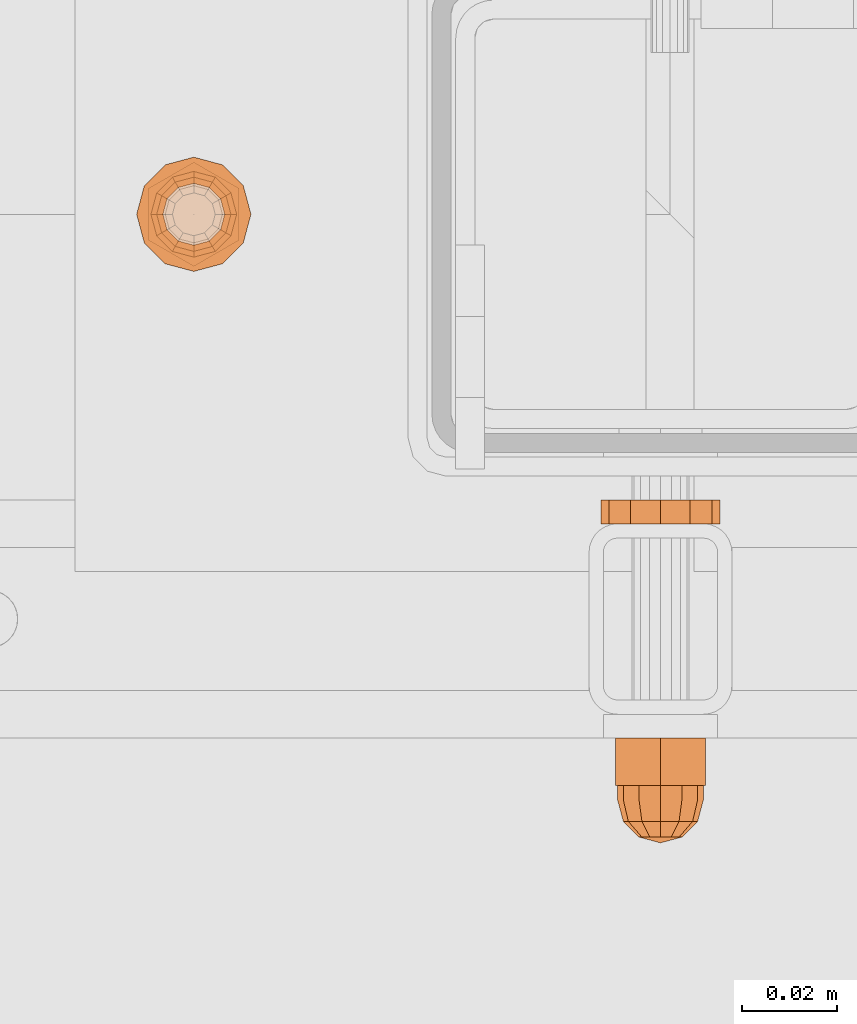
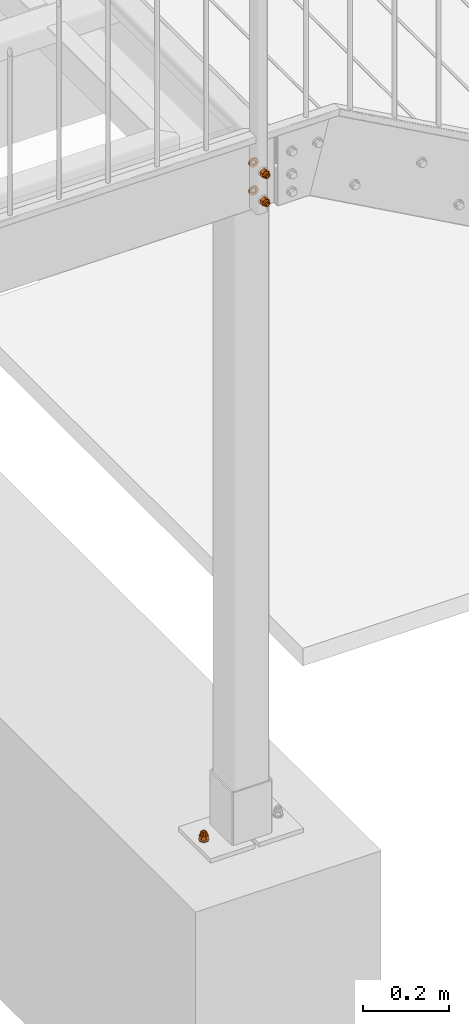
# One storey, part 102 of 116: 6 proxies.
"""IFC2X3 building model written with IfcOpenShell, lengths in millimetres."""

from ifc_helpers import new_model, entity, si_unit, converted_unit, origin_with_axes, place, context, project, spatial, faceted_brep, material, element, save


model = new_model("IFC2X3")

# Units and contexts
model_context = context("Model", 3, precision=1e-09, world=origin_with_axes())
ifc_project = project(units=[si_unit("LENGTHUNIT", "METRE", prefix="MILLI"), si_unit("AREAUNIT", "SQUARE_METRE"), si_unit("VOLUMEUNIT", "CUBIC_METRE"), converted_unit("PLANEANGLEUNIT", "DEGREE", entity("IfcPlaneAngleMeasure", 0.01745329), si_unit("PLANEANGLEUNIT", "RADIAN"), dimensions=[0, 0, 0, 0, 0, 0, 0])], contexts=[model_context])

# Site, building, storey
site_placement = place(None, origin_with_axes())
site = spatial("IfcSite", under=ifc_project, at=site_placement, Name="Site", CompositionType="ELEMENT")
building_placement = place(site_placement, origin_with_axes())
building = spatial("IfcBuilding", under=site, at=building_placement, Name="Struktur 1", CompositionType="ELEMENT")
storey_placement = place(building_placement, origin_with_axes())
storey = spatial("IfcBuildingStorey", under=building, at=storey_placement, Name="Default Storey", CompositionType="ELEMENT", Elevation=0.0)

# Proxies
ifc_material = material(Name="Kein")
proxy_1_placement = place(None, origin_with_axes())
element("IfcBuildingElementProxy", 1, at=proxy_1_placement, inside=storey, material=ifc_material, ObjectType="-", context=model_context, shape_type="Brep", body=[
    faceted_brep([(58159.049134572, 9022.359883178, -145.0), (58159.049134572, 9012.359883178, -145.0), (58159.852982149, 9012.359883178, -148.0), (58159.852982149, 9022.359883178, -148.0), (58162.049134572, 9012.359883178, -150.196152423), (58162.049134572, 9022.359883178, -150.196152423), (58159.852982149, 9022.359883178, -142.0), (58159.852982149, 9012.359883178, -142.0), (58155.569265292, 9022.359883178, -139.526794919), (58165.049134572, 9022.359883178, -134.053589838), (58174.529003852, 9022.359883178, -139.526794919), (58174.529003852, 9022.359883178, -150.473205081), (58165.049134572, 9022.359883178, -155.946410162), (58155.569265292, 9022.359883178, -150.473205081), (58162.049134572, 9022.359883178, -139.803847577), (58165.049134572, 9022.359883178, -151.0), (58168.049134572, 9022.359883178, -150.196152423), (58170.245286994, 9022.359883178, -148.0), (58171.049134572, 9022.359883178, -145.0), (58170.245286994, 9022.359883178, -142.0), (58168.049134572, 9022.359883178, -139.803847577), (58165.049134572, 9022.359883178, -139.0), (58165.049134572, 9012.359883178, -134.053589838), (58155.569265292, 9012.359883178, -139.526794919), (58155.569265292, 9012.359883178, -150.473205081), (58165.049134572, 9012.359883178, -155.946410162), (58174.529003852, 9012.359883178, -150.473205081), (58174.529003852, 9012.359883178, -139.526794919), (58162.049134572, 9012.359883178, -139.803847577), (58165.049134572, 9012.359883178, -139.0), (58168.049134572, 9012.359883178, -139.803847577), (58170.245286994, 9012.359883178, -142.0), (58171.049134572, 9012.359883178, -145.0), (58170.245286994, 9012.359883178, -148.0), (58168.049134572, 9012.359883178, -150.196152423), (58165.049134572, 9012.359883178, -151.0)], [[[0, 1, 2, 3]], [[3, 2, 4, 5]], [[1, 0, 6, 7]], [[8, 9, 10, 11, 12, 13], [14, 6, 0, 3, 5, 15, 16, 17, 18, 19, 20, 21]], [[22, 23, 24, 25, 26, 27], [1, 7, 28, 29, 30, 31, 32, 33, 34, 35, 4, 2]], [[7, 6, 14, 28]], [[24, 23, 8, 13]], [[5, 4, 35, 15]], [[13, 12, 25, 24]], [[28, 14, 21, 29]], [[23, 22, 9, 8]], [[15, 35, 34, 16]], [[12, 11, 26, 25]], [[29, 21, 20, 30]], [[22, 27, 10, 9]], [[16, 34, 33, 17]], [[27, 26, 11, 10]], [[30, 20, 19, 31]], [[17, 33, 32, 18]], [[31, 19, 18, 32]]]),
    faceted_brep([(58165.049134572, 9012.359883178, -136.0), (58165.049134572, 9009.359883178, -136.0), (58169.549134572, 9009.359883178, -137.205771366), (58169.549134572, 9012.359883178, -137.205771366), (58160.549134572, 9012.359883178, -137.205771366), (58160.549134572, 9009.359883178, -137.205771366), (58157.254905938, 9009.359883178, -149.5), (58160.549134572, 9009.359883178, -152.794228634), (58165.049134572, 9009.359883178, -154.0), (58169.549134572, 9009.359883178, -152.794228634), (58172.843363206, 9009.359883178, -149.5), (58174.049134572, 9009.359883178, -145.0), (58172.843363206, 9009.359883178, -140.5), (58157.254905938, 9009.359883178, -140.5), (58156.049134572, 9009.359883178, -145.0), (58172.843363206, 9012.359883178, -149.5), (58169.549134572, 9012.359883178, -152.794228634), (58165.049134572, 9012.359883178, -154.0), (58160.549134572, 9012.359883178, -152.794228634), (58157.254905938, 9012.359883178, -149.5), (58156.049134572, 9012.359883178, -145.0), (58157.254905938, 9012.359883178, -140.5), (58172.843363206, 9012.359883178, -140.5), (58174.049134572, 9012.359883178, -145.0)], [[[0, 1, 2, 3]], [[1, 0, 4, 5]], [[6, 7, 8, 9, 10, 11, 12, 2, 1, 5, 13, 14]], [[15, 16, 17, 18, 19, 20, 21, 4, 0, 3, 22, 23]], [[3, 2, 12, 22]], [[5, 4, 21, 13]], [[22, 12, 11, 23]], [[13, 21, 20, 14]], [[7, 18, 17, 8]], [[19, 6, 14, 20]], [[18, 7, 6, 19]], [[23, 11, 10, 15]], [[8, 17, 16, 9]], [[15, 10, 9, 16]]]),
    faceted_brep([(58157.254905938, 9009.359883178, -140.5), (58158.299134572, 9004.859883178, -141.102885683), (58161.152020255, 9004.859883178, -138.25), (58160.549134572, 9009.359883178, -137.205771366), (58172.843363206, 9009.359883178, -149.5), (58169.549134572, 9009.359883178, -152.794228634), (58165.049134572, 9009.359883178, -154.0), (58160.549134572, 9009.359883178, -152.794228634), (58157.254905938, 9009.359883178, -149.5), (58156.049134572, 9009.359883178, -145.0), (58165.049134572, 9009.359883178, -136.0), (58169.549134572, 9009.359883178, -137.205771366), (58172.843363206, 9009.359883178, -140.5), (58174.049134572, 9009.359883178, -145.0), (58165.049134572, 9004.859883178, -137.205771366), (58157.254905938, 9004.859883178, -145.0), (58160.549134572, 9001.565654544, -145.0), (58161.152020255, 9001.565654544, -142.75), (58168.946248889, 9004.859883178, -138.25), (58162.799134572, 9001.565654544, -141.102885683), (58158.299134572, 9004.859883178, -148.897114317), (58161.152020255, 9001.565654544, -147.25), (58165.049134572, 9001.565654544, -140.5), (58165.049134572, 9000.359883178, -145.0), (58161.152020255, 9004.859883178, -151.75), (58162.799134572, 9001.565654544, -148.897114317), (58165.049134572, 9004.859883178, -152.794228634), (58171.799134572, 9004.859883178, -141.102885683), (58167.299134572, 9001.565654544, -141.102885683), (58165.049134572, 9001.565654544, -149.5), (58168.946248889, 9004.859883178, -151.75), (58167.299134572, 9001.565654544, -148.897114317), (58172.843363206, 9004.859883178, -145.0), (58168.946248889, 9001.565654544, -142.75), (58171.799134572, 9004.859883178, -148.897114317), (58168.946248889, 9001.565654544, -147.25), (58169.549134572, 9001.565654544, -145.0)], [[[0, 1, 2, 3]], [[4, 5, 6, 7, 8, 9, 0, 3, 10, 11, 12, 13]], [[3, 2, 14, 10]], [[15, 16, 17, 1]], [[1, 0, 9, 15]], [[10, 14, 18, 11]], [[1, 17, 19, 2]], [[16, 15, 20, 21]], [[2, 19, 22, 14]], [[23, 17, 16]], [[24, 25, 21, 20]], [[23, 16, 21]], [[24, 7, 6, 26]], [[20, 8, 7, 24]], [[15, 9, 8, 20]], [[11, 18, 27, 12]], [[14, 22, 28, 18]], [[23, 19, 17]], [[26, 29, 25, 24]], [[23, 21, 25]], [[23, 22, 19]], [[26, 6, 5, 30]], [[29, 26, 30, 31]], [[23, 25, 29]], [[12, 27, 32, 13]], [[18, 28, 33, 27]], [[23, 28, 22]], [[23, 29, 31]], [[23, 33, 28]], [[30, 5, 4, 34]], [[31, 30, 34, 35]], [[23, 31, 35]], [[13, 32, 34, 4]], [[27, 33, 36, 32]], [[23, 36, 33]], [[23, 35, 36]], [[35, 34, 32, 36]]]),
])
proxy_2_placement = place(None, origin_with_axes())
element("IfcBuildingElementProxy", 2, at=proxy_2_placement, inside=storey, material=ifc_material, ObjectType="-", context=model_context, shape_type="Brep", body=[
    faceted_brep([(58159.049134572, 9022.359883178, -65.0), (58159.049134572, 9012.359883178, -65.0), (58159.852982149, 9012.359883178, -68.0), (58159.852982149, 9022.359883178, -68.0), (58162.049134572, 9012.359883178, -70.196152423), (58162.049134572, 9022.359883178, -70.196152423), (58159.852982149, 9022.359883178, -62.0), (58159.852982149, 9012.359883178, -62.0), (58155.569265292, 9022.359883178, -59.526794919), (58165.049134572, 9022.359883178, -54.053589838), (58174.529003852, 9022.359883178, -59.526794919), (58174.529003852, 9022.359883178, -70.473205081), (58165.049134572, 9022.359883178, -75.946410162), (58155.569265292, 9022.359883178, -70.473205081), (58162.049134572, 9022.359883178, -59.803847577), (58165.049134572, 9022.359883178, -71.0), (58168.049134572, 9022.359883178, -70.196152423), (58170.245286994, 9022.359883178, -68.0), (58171.049134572, 9022.359883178, -65.0), (58170.245286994, 9022.359883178, -62.0), (58168.049134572, 9022.359883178, -59.803847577), (58165.049134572, 9022.359883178, -59.0), (58165.049134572, 9012.359883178, -54.053589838), (58155.569265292, 9012.359883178, -59.526794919), (58155.569265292, 9012.359883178, -70.473205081), (58165.049134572, 9012.359883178, -75.946410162), (58174.529003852, 9012.359883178, -70.473205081), (58174.529003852, 9012.359883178, -59.526794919), (58162.049134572, 9012.359883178, -59.803847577), (58165.049134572, 9012.359883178, -59.0), (58168.049134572, 9012.359883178, -59.803847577), (58170.245286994, 9012.359883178, -62.0), (58171.049134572, 9012.359883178, -65.0), (58170.245286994, 9012.359883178, -68.0), (58168.049134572, 9012.359883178, -70.196152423), (58165.049134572, 9012.359883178, -71.0)], [[[0, 1, 2, 3]], [[3, 2, 4, 5]], [[1, 0, 6, 7]], [[8, 9, 10, 11, 12, 13], [14, 6, 0, 3, 5, 15, 16, 17, 18, 19, 20, 21]], [[22, 23, 24, 25, 26, 27], [1, 7, 28, 29, 30, 31, 32, 33, 34, 35, 4, 2]], [[7, 6, 14, 28]], [[24, 23, 8, 13]], [[5, 4, 35, 15]], [[13, 12, 25, 24]], [[28, 14, 21, 29]], [[23, 22, 9, 8]], [[15, 35, 34, 16]], [[12, 11, 26, 25]], [[29, 21, 20, 30]], [[22, 27, 10, 9]], [[16, 34, 33, 17]], [[27, 26, 11, 10]], [[30, 20, 19, 31]], [[17, 33, 32, 18]], [[31, 19, 18, 32]]]),
    faceted_brep([(58165.049134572, 9012.359883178, -56.0), (58165.049134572, 9009.359883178, -56.0), (58169.549134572, 9009.359883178, -57.205771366), (58169.549134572, 9012.359883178, -57.205771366), (58160.549134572, 9012.359883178, -57.205771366), (58160.549134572, 9009.359883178, -57.205771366), (58157.254905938, 9009.359883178, -69.5), (58160.549134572, 9009.359883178, -72.794228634), (58165.049134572, 9009.359883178, -74.0), (58169.549134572, 9009.359883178, -72.794228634), (58172.843363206, 9009.359883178, -69.5), (58174.049134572, 9009.359883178, -65.0), (58172.843363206, 9009.359883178, -60.5), (58157.254905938, 9009.359883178, -60.5), (58156.049134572, 9009.359883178, -65.0), (58172.843363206, 9012.359883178, -69.5), (58169.549134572, 9012.359883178, -72.794228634), (58165.049134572, 9012.359883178, -74.0), (58160.549134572, 9012.359883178, -72.794228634), (58157.254905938, 9012.359883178, -69.5), (58156.049134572, 9012.359883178, -65.0), (58157.254905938, 9012.359883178, -60.5), (58172.843363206, 9012.359883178, -60.5), (58174.049134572, 9012.359883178, -65.0)], [[[0, 1, 2, 3]], [[1, 0, 4, 5]], [[6, 7, 8, 9, 10, 11, 12, 2, 1, 5, 13, 14]], [[15, 16, 17, 18, 19, 20, 21, 4, 0, 3, 22, 23]], [[3, 2, 12, 22]], [[5, 4, 21, 13]], [[22, 12, 11, 23]], [[13, 21, 20, 14]], [[7, 18, 17, 8]], [[19, 6, 14, 20]], [[18, 7, 6, 19]], [[23, 11, 10, 15]], [[8, 17, 16, 9]], [[15, 10, 9, 16]]]),
    faceted_brep([(58157.254905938, 9009.359883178, -60.5), (58158.299134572, 9004.859883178, -61.102885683), (58161.152020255, 9004.859883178, -58.25), (58160.549134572, 9009.359883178, -57.205771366), (58172.843363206, 9009.359883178, -69.5), (58169.549134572, 9009.359883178, -72.794228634), (58165.049134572, 9009.359883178, -74.0), (58160.549134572, 9009.359883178, -72.794228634), (58157.254905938, 9009.359883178, -69.5), (58156.049134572, 9009.359883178, -65.0), (58165.049134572, 9009.359883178, -56.0), (58169.549134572, 9009.359883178, -57.205771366), (58172.843363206, 9009.359883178, -60.5), (58174.049134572, 9009.359883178, -65.0), (58165.049134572, 9004.859883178, -57.205771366), (58157.254905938, 9004.859883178, -65.0), (58160.549134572, 9001.565654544, -65.0), (58161.152020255, 9001.565654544, -62.75), (58168.946248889, 9004.859883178, -58.25), (58162.799134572, 9001.565654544, -61.102885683), (58158.299134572, 9004.859883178, -68.897114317), (58161.152020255, 9001.565654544, -67.25), (58165.049134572, 9001.565654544, -60.5), (58165.049134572, 9000.359883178, -65.0), (58161.152020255, 9004.859883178, -71.75), (58162.799134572, 9001.565654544, -68.897114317), (58165.049134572, 9004.859883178, -72.794228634), (58171.799134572, 9004.859883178, -61.102885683), (58167.299134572, 9001.565654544, -61.102885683), (58165.049134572, 9001.565654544, -69.5), (58168.946248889, 9004.859883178, -71.75), (58167.299134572, 9001.565654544, -68.897114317), (58172.843363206, 9004.859883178, -65.0), (58168.946248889, 9001.565654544, -62.75), (58171.799134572, 9004.859883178, -68.897114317), (58168.946248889, 9001.565654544, -67.25), (58169.549134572, 9001.565654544, -65.0)], [[[0, 1, 2, 3]], [[4, 5, 6, 7, 8, 9, 0, 3, 10, 11, 12, 13]], [[3, 2, 14, 10]], [[15, 16, 17, 1]], [[1, 0, 9, 15]], [[10, 14, 18, 11]], [[1, 17, 19, 2]], [[16, 15, 20, 21]], [[2, 19, 22, 14]], [[23, 17, 16]], [[24, 25, 21, 20]], [[23, 16, 21]], [[24, 7, 6, 26]], [[20, 8, 7, 24]], [[15, 9, 8, 20]], [[11, 18, 27, 12]], [[14, 22, 28, 18]], [[23, 19, 17]], [[26, 29, 25, 24]], [[23, 21, 25]], [[23, 22, 19]], [[26, 6, 5, 30]], [[29, 26, 30, 31]], [[23, 25, 29]], [[12, 27, 32, 13]], [[18, 28, 33, 27]], [[23, 28, 22]], [[23, 29, 31]], [[23, 33, 28]], [[30, 5, 4, 34]], [[31, 30, 34, 35]], [[23, 31, 35]], [[13, 32, 34, 4]], [[27, 33, 36, 32]], [[23, 36, 33]], [[23, 35, 36]], [[35, 34, 32, 36]]]),
])
proxy_3_placement = place(None, origin_with_axes())
element("IfcBuildingElementProxy", 3, at=proxy_3_placement, inside=storey, material=ifc_material, ObjectType="-", context=model_context, shape_type="Brep", body=[
    faceted_brep([(58154.223817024, 9067.359883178, -71.25), (58158.799134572, 9067.359883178, -75.825317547), (58165.049134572, 9067.359883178, -77.5), (58171.299134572, 9067.359883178, -75.825317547), (58175.874452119, 9067.359883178, -71.25), (58177.549134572, 9067.359883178, -65.0), (58175.874452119, 9067.359883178, -58.75), (58171.299134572, 9067.359883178, -54.174682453), (58165.049134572, 9067.359883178, -52.5), (58158.799134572, 9067.359883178, -54.174682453), (58154.223817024, 9067.359883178, -58.75), (58152.549134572, 9067.359883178, -65.0), (58165.049134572, 9067.359883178, -71.0), (58162.049134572, 9067.359883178, -70.196152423), (58159.852982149, 9067.359883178, -68.0), (58159.049134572, 9067.359883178, -65.0), (58159.852982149, 9067.359883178, -62.0), (58162.049134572, 9067.359883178, -59.803847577), (58165.049134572, 9067.359883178, -59.0), (58168.049134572, 9067.359883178, -59.803847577), (58170.245286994, 9067.359883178, -62.0), (58171.049134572, 9067.359883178, -65.0), (58170.245286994, 9067.359883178, -68.0), (58168.049134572, 9067.359883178, -70.196152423), (58154.223817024, 9072.359883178, -71.25), (58158.799134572, 9072.359883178, -75.825317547), (58152.549134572, 9072.359883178, -65.0), (58154.223817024, 9072.359883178, -58.75), (58158.799134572, 9072.359883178, -54.174682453), (58165.049134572, 9072.359883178, -52.5), (58171.299134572, 9072.359883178, -54.174682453), (58175.874452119, 9072.359883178, -58.75), (58177.549134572, 9072.359883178, -65.0), (58175.874452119, 9072.359883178, -71.25), (58171.299134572, 9072.359883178, -75.825317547), (58165.049134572, 9072.359883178, -77.5), (58159.852982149, 9072.359883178, -62.0), (58159.049134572, 9072.359883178, -65.0), (58159.852982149, 9072.359883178, -68.0), (58162.049134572, 9072.359883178, -70.196152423), (58165.049134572, 9072.359883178, -71.0), (58168.049134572, 9072.359883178, -70.196152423), (58170.245286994, 9072.359883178, -68.0), (58171.049134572, 9072.359883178, -65.0), (58170.245286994, 9072.359883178, -62.0), (58168.049134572, 9072.359883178, -59.803847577), (58165.049134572, 9072.359883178, -59.0), (58162.049134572, 9072.359883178, -59.803847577)], [[[0, 1, 2, 3, 4, 5, 6, 7, 8, 9, 10, 11], [12, 13, 14, 15, 16, 17, 18, 19, 20, 21, 22, 23]], [[0, 24, 25, 1]], [[24, 26, 27, 28, 29, 30, 31, 32, 33, 34, 35, 25], [36, 37, 38, 39, 40, 41, 42, 43, 44, 45, 46, 47]], [[38, 14, 13, 39]], [[24, 0, 11, 26]], [[14, 38, 37, 15]], [[39, 13, 12, 40]], [[1, 25, 35, 2]], [[26, 11, 10, 27]], [[15, 37, 36, 16]], [[40, 12, 23, 41]], [[2, 35, 34, 3]], [[27, 10, 9, 28]], [[16, 36, 47, 17]], [[22, 42, 41, 23]], [[3, 34, 33, 4]], [[42, 22, 21, 43]], [[28, 9, 8, 29]], [[17, 47, 46, 18]], [[20, 44, 43, 21]], [[4, 33, 32, 5]], [[45, 19, 18, 46]], [[44, 20, 19, 45]], [[29, 8, 7, 30]], [[5, 32, 31, 6]], [[30, 7, 6, 31]]]),
])
proxy_4_placement = place(None, origin_with_axes())
element("IfcBuildingElementProxy", 4, at=proxy_4_placement, inside=storey, material=ifc_material, ObjectType="-", context=model_context, shape_type="Brep", body=[
    faceted_brep([(58154.223817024, 9067.359883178, -151.25), (58158.799134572, 9067.359883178, -155.825317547), (58165.049134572, 9067.359883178, -157.5), (58171.299134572, 9067.359883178, -155.825317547), (58175.874452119, 9067.359883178, -151.25), (58177.549134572, 9067.359883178, -145.0), (58175.874452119, 9067.359883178, -138.75), (58171.299134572, 9067.359883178, -134.174682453), (58165.049134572, 9067.359883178, -132.5), (58158.799134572, 9067.359883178, -134.174682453), (58154.223817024, 9067.359883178, -138.75), (58152.549134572, 9067.359883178, -145.0), (58165.049134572, 9067.359883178, -151.0), (58162.049134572, 9067.359883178, -150.196152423), (58159.852982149, 9067.359883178, -148.0), (58159.049134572, 9067.359883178, -145.0), (58159.852982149, 9067.359883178, -142.0), (58162.049134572, 9067.359883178, -139.803847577), (58165.049134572, 9067.359883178, -139.0), (58168.049134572, 9067.359883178, -139.803847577), (58170.245286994, 9067.359883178, -142.0), (58171.049134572, 9067.359883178, -145.0), (58170.245286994, 9067.359883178, -148.0), (58168.049134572, 9067.359883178, -150.196152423), (58154.223817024, 9072.359883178, -151.25), (58158.799134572, 9072.359883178, -155.825317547), (58152.549134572, 9072.359883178, -145.0), (58154.223817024, 9072.359883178, -138.75), (58158.799134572, 9072.359883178, -134.174682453), (58165.049134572, 9072.359883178, -132.5), (58171.299134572, 9072.359883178, -134.174682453), (58175.874452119, 9072.359883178, -138.75), (58177.549134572, 9072.359883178, -145.0), (58175.874452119, 9072.359883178, -151.25), (58171.299134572, 9072.359883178, -155.825317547), (58165.049134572, 9072.359883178, -157.5), (58159.852982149, 9072.359883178, -142.0), (58159.049134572, 9072.359883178, -145.0), (58159.852982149, 9072.359883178, -148.0), (58162.049134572, 9072.359883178, -150.196152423), (58165.049134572, 9072.359883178, -151.0), (58168.049134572, 9072.359883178, -150.196152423), (58170.245286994, 9072.359883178, -148.0), (58171.049134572, 9072.359883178, -145.0), (58170.245286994, 9072.359883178, -142.0), (58168.049134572, 9072.359883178, -139.803847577), (58165.049134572, 9072.359883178, -139.0), (58162.049134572, 9072.359883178, -139.803847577)], [[[0, 1, 2, 3, 4, 5, 6, 7, 8, 9, 10, 11], [12, 13, 14, 15, 16, 17, 18, 19, 20, 21, 22, 23]], [[0, 24, 25, 1]], [[24, 26, 27, 28, 29, 30, 31, 32, 33, 34, 35, 25], [36, 37, 38, 39, 40, 41, 42, 43, 44, 45, 46, 47]], [[38, 14, 13, 39]], [[24, 0, 11, 26]], [[14, 38, 37, 15]], [[39, 13, 12, 40]], [[1, 25, 35, 2]], [[26, 11, 10, 27]], [[15, 37, 36, 16]], [[40, 12, 23, 41]], [[2, 35, 34, 3]], [[27, 10, 9, 28]], [[16, 36, 47, 17]], [[22, 42, 41, 23]], [[3, 34, 33, 4]], [[42, 22, 21, 43]], [[28, 9, 8, 29]], [[17, 47, 46, 18]], [[20, 44, 43, 21]], [[4, 33, 32, 5]], [[45, 19, 18, 46]], [[44, 20, 19, 45]], [[29, 8, 7, 30]], [[5, 32, 31, 6]], [[30, 7, 6, 31]]]),
])
proxy_5_placement = place(None, origin_with_axes())
element("IfcBuildingElementProxy", 5, at=proxy_5_placement, inside=storey, material=ifc_material, ObjectType="-", context=model_context, shape_type="Brep", body=[
    faceted_brep([(58056.656829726, 9138.358883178, -1994.5), (58056.656829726, 9138.358883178, -1997.0), (58055.049134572, 9132.358883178, -1997.0), (58055.049134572, 9132.358883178, -1994.5), (58061.049134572, 9142.751188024, -1997.0), (58067.049134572, 9144.358883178, -1997.0), (58073.049134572, 9142.751188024, -1997.0), (58077.441439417, 9138.358883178, -1997.0), (58079.049134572, 9132.358883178, -1997.0), (58077.441439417, 9126.358883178, -1997.0), (58073.049134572, 9121.966578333, -1997.0), (58067.049134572, 9120.358883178, -1997.0), (58061.049134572, 9121.966578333, -1997.0), (58056.656829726, 9126.358883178, -1997.0), (58063.799134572, 9137.988048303, -1997.0), (58061.419969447, 9135.608883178, -1997.0), (58060.549134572, 9132.358883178, -1997.0), (58061.419969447, 9129.108883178, -1997.0), (58063.799134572, 9126.729718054, -1997.0), (58067.049134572, 9125.858883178, -1997.0), (58070.299134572, 9126.729718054, -1997.0), (58072.678299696, 9129.108883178, -1997.0), (58073.549134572, 9132.358883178, -1997.0), (58072.678299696, 9135.608883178, -1997.0), (58070.299134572, 9137.988048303, -1997.0), (58067.049134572, 9138.858883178, -1997.0), (58060.549134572, 9132.358883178, -1994.5), (58061.419969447, 9135.608883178, -1994.5), (58061.049134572, 9142.751188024, -1994.5), (58056.656829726, 9126.358883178, -1994.5), (58061.049134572, 9121.966578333, -1994.5), (58067.049134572, 9120.358883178, -1994.5), (58073.049134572, 9121.966578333, -1994.5), (58077.441439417, 9126.358883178, -1994.5), (58079.049134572, 9132.358883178, -1994.5), (58077.441439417, 9138.358883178, -1994.5), (58073.049134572, 9142.751188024, -1994.5), (58067.049134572, 9144.358883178, -1994.5), (58063.799134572, 9137.988048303, -1994.5), (58067.049134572, 9138.858883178, -1994.5), (58070.299134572, 9137.988048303, -1994.5), (58072.678299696, 9135.608883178, -1994.5), (58073.549134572, 9132.358883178, -1994.5), (58072.678299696, 9129.108883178, -1994.5), (58070.299134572, 9126.729718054, -1994.5), (58067.049134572, 9125.858883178, -1994.5), (58063.799134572, 9126.729718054, -1994.5), (58061.419969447, 9129.108883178, -1994.5)], [[[0, 1, 2, 3]], [[1, 4, 5, 6, 7, 8, 9, 10, 11, 12, 13, 2], [14, 15, 16, 17, 18, 19, 20, 21, 22, 23, 24, 25]], [[26, 16, 15, 27]], [[28, 0, 3, 29, 30, 31, 32, 33, 34, 35, 36, 37], [26, 27, 38, 39, 40, 41, 42, 43, 44, 45, 46, 47]], [[1, 0, 28, 4]], [[16, 26, 47, 17]], [[3, 2, 13, 29]], [[27, 15, 14, 38]], [[4, 28, 37, 5]], [[17, 47, 46, 18]], [[29, 13, 12, 30]], [[38, 14, 25, 39]], [[18, 46, 45, 19]], [[5, 37, 36, 6]], [[39, 25, 24, 40]], [[30, 12, 11, 31]], [[19, 45, 44, 20]], [[6, 36, 35, 7]], [[40, 24, 23, 41]], [[31, 11, 10, 32]], [[20, 44, 43, 21]], [[7, 35, 34, 8]], [[41, 23, 22, 42]], [[32, 10, 9, 33]], [[21, 43, 42, 22]], [[8, 34, 33, 9]]]),
])
proxy_6_placement = place(None, origin_with_axes())
element("IfcBuildingElementProxy", 6, at=proxy_6_placement, inside=storey, material=ifc_material, ObjectType="-", context=model_context, shape_type="Brep", body=[
    faceted_brep([(58073.049134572, 9132.358883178, -1992.0), (58073.049134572, 9132.358883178, -1982.0), (58072.245286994, 9135.358883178, -1982.0), (58072.245286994, 9135.358883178, -1992.0), (58070.049134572, 9137.555035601, -1982.0), (58070.049134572, 9137.555035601, -1992.0), (58072.245286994, 9129.358883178, -1992.0), (58072.245286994, 9129.358883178, -1982.0), (58076.529003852, 9126.885678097, -1992.0), (58067.049134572, 9121.412473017, -1992.0), (58057.569265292, 9126.885678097, -1992.0), (58057.569265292, 9137.832088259, -1992.0), (58067.049134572, 9143.30529334, -1992.0), (58076.529003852, 9137.832088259, -1992.0), (58070.049134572, 9127.162730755, -1992.0), (58067.049134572, 9138.358883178, -1992.0), (58064.049134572, 9137.555035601, -1992.0), (58061.852982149, 9135.358883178, -1992.0), (58061.049134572, 9132.358883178, -1992.0), (58061.852982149, 9129.358883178, -1992.0), (58064.049134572, 9127.162730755, -1992.0), (58067.049134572, 9126.358883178, -1992.0), (58067.049134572, 9121.412473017, -1982.0), (58076.529003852, 9126.885678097, -1982.0), (58076.529003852, 9137.832088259, -1982.0), (58067.049134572, 9143.30529334, -1982.0), (58057.569265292, 9137.832088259, -1982.0), (58057.569265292, 9126.885678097, -1982.0), (58070.049134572, 9127.162730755, -1982.0), (58067.049134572, 9126.358883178, -1982.0), (58064.049134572, 9127.162730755, -1982.0), (58061.852982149, 9129.358883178, -1982.0), (58061.049134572, 9132.358883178, -1982.0), (58061.852982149, 9135.358883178, -1982.0), (58064.049134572, 9137.555035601, -1982.0), (58067.049134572, 9138.358883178, -1982.0)], [[[0, 1, 2, 3]], [[3, 2, 4, 5]], [[1, 0, 6, 7]], [[8, 9, 10, 11, 12, 13], [14, 6, 0, 3, 5, 15, 16, 17, 18, 19, 20, 21]], [[22, 23, 24, 25, 26, 27], [1, 7, 28, 29, 30, 31, 32, 33, 34, 35, 4, 2]], [[7, 6, 14, 28]], [[24, 23, 8, 13]], [[5, 4, 35, 15]], [[13, 12, 25, 24]], [[28, 14, 21, 29]], [[23, 22, 9, 8]], [[15, 35, 34, 16]], [[12, 11, 26, 25]], [[29, 21, 20, 30]], [[22, 27, 10, 9]], [[16, 34, 33, 17]], [[27, 26, 11, 10]], [[30, 20, 19, 31]], [[17, 33, 32, 18]], [[31, 19, 18, 32]]]),
    faceted_brep([(58067.049134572, 9123.358883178, -1982.0), (58067.049134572, 9123.358883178, -1979.0), (58062.549134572, 9124.564654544, -1979.0), (58062.549134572, 9124.564654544, -1982.0), (58071.549134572, 9124.564654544, -1982.0), (58071.549134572, 9124.564654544, -1979.0), (58074.843363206, 9136.858883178, -1979.0), (58071.549134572, 9140.153111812, -1979.0), (58067.049134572, 9141.358883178, -1979.0), (58062.549134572, 9140.153111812, -1979.0), (58059.254905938, 9136.858883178, -1979.0), (58058.049134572, 9132.358883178, -1979.0), (58059.254905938, 9127.858883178, -1979.0), (58074.843363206, 9127.858883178, -1979.0), (58076.049134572, 9132.358883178, -1979.0), (58059.254905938, 9136.858883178, -1982.0), (58062.549134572, 9140.153111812, -1982.0), (58067.049134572, 9141.358883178, -1982.0), (58071.549134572, 9140.153111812, -1982.0), (58074.843363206, 9136.858883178, -1982.0), (58076.049134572, 9132.358883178, -1982.0), (58074.843363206, 9127.858883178, -1982.0), (58059.254905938, 9127.858883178, -1982.0), (58058.049134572, 9132.358883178, -1982.0)], [[[0, 1, 2, 3]], [[1, 0, 4, 5]], [[6, 7, 8, 9, 10, 11, 12, 2, 1, 5, 13, 14]], [[15, 16, 17, 18, 19, 20, 21, 4, 0, 3, 22, 23]], [[3, 2, 12, 22]], [[5, 4, 21, 13]], [[22, 12, 11, 23]], [[13, 21, 20, 14]], [[7, 18, 17, 8]], [[19, 6, 14, 20]], [[18, 7, 6, 19]], [[23, 11, 10, 15]], [[8, 17, 16, 9]], [[15, 10, 9, 16]]]),
    faceted_brep([(58074.843363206, 9127.858883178, -1979.0), (58073.799134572, 9128.461768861, -1974.5), (58070.946248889, 9125.608883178, -1974.5), (58071.549134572, 9124.564654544, -1979.0), (58059.254905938, 9136.858883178, -1979.0), (58062.549134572, 9140.153111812, -1979.0), (58067.049134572, 9141.358883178, -1979.0), (58071.549134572, 9140.153111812, -1979.0), (58074.843363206, 9136.858883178, -1979.0), (58076.049134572, 9132.358883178, -1979.0), (58067.049134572, 9123.358883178, -1979.0), (58062.549134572, 9124.564654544, -1979.0), (58059.254905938, 9127.858883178, -1979.0), (58058.049134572, 9132.358883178, -1979.0), (58067.049134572, 9124.564654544, -1974.5), (58074.843363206, 9132.358883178, -1974.5), (58071.549134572, 9132.358883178, -1971.205771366), (58070.946248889, 9130.108883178, -1971.205771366), (58063.152020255, 9125.608883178, -1974.5), (58069.299134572, 9128.461768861, -1971.205771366), (58073.799134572, 9136.255997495, -1974.5), (58070.946248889, 9134.608883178, -1971.205771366), (58067.049134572, 9127.858883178, -1971.205771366), (58067.049134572, 9132.358883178, -1970.0), (58070.946248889, 9139.108883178, -1974.5), (58069.299134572, 9136.255997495, -1971.205771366), (58067.049134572, 9140.153111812, -1974.5), (58060.299134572, 9128.461768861, -1974.5), (58064.799134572, 9128.461768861, -1971.205771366), (58067.049134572, 9136.858883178, -1971.205771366), (58063.152020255, 9139.108883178, -1974.5), (58064.799134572, 9136.255997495, -1971.205771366), (58059.254905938, 9132.358883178, -1974.5), (58063.152020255, 9130.108883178, -1971.205771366), (58060.299134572, 9136.255997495, -1974.5), (58063.152020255, 9134.608883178, -1971.205771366), (58062.549134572, 9132.358883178, -1971.205771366)], [[[0, 1, 2, 3]], [[4, 5, 6, 7, 8, 9, 0, 3, 10, 11, 12, 13]], [[3, 2, 14, 10]], [[15, 16, 17, 1]], [[1, 0, 9, 15]], [[10, 14, 18, 11]], [[1, 17, 19, 2]], [[16, 15, 20, 21]], [[2, 19, 22, 14]], [[23, 17, 16]], [[24, 25, 21, 20]], [[23, 16, 21]], [[24, 7, 6, 26]], [[20, 8, 7, 24]], [[15, 9, 8, 20]], [[11, 18, 27, 12]], [[14, 22, 28, 18]], [[23, 19, 17]], [[26, 29, 25, 24]], [[23, 21, 25]], [[23, 22, 19]], [[26, 6, 5, 30]], [[29, 26, 30, 31]], [[23, 25, 29]], [[12, 27, 32, 13]], [[18, 28, 33, 27]], [[23, 28, 22]], [[23, 29, 31]], [[23, 33, 28]], [[30, 5, 4, 34]], [[31, 30, 34, 35]], [[23, 31, 35]], [[13, 32, 34, 4]], [[27, 33, 36, 32]], [[23, 36, 33]], [[23, 35, 36]], [[35, 34, 32, 36]]]),
])

save(model, "model.ifc")
